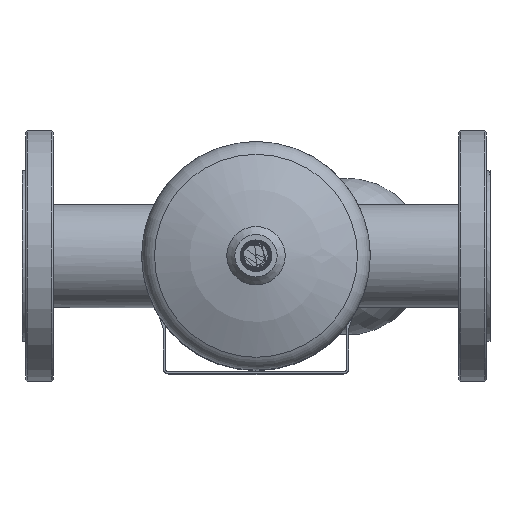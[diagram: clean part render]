
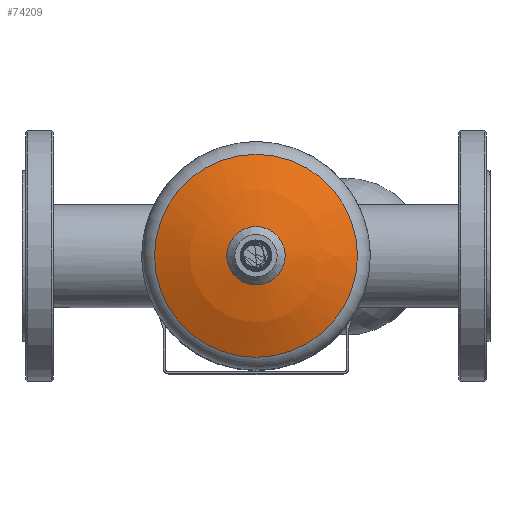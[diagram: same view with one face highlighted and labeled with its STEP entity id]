
A CAD part, top view. The second image highlights one B-rep face of the part: STEP entity #74209.
In plain terms, the highlighted spherical face has radius 168.3 mm.
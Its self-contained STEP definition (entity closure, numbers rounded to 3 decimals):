
#12100=SPHERICAL_SURFACE('',#76532,168.3);
#26396=ORIENTED_EDGE('',*,*,#34275,.T.);
#26397=ORIENTED_EDGE('',*,*,#34286,.T.);
#34275=EDGE_CURVE('',#39458,#39458,#39748,.T.);
#34286=EDGE_CURVE('',#39469,#39469,#39753,.T.);
#39458=VERTEX_POINT('',#151945);
#39469=VERTEX_POINT('',#152085);
#39748=CIRCLE('',#76524,21.515);
#39753=CIRCLE('',#76533,74.8);
#43408=EDGE_LOOP('',(#26396));
#43409=EDGE_LOOP('',(#26397));
#47179=FACE_BOUND('',#43408,.T.);
#47180=FACE_BOUND('',#43409,.T.);
#74209=ADVANCED_FACE('',(#47179,#47180),#12100,.T.);
#76524=AXIS2_PLACEMENT_3D('',#151944,#84920,#84921);
#76532=AXIS2_PLACEMENT_3D('',#152083,#84940,#84941);
#76533=AXIS2_PLACEMENT_3D('',#152084,#84942,#84943);
#84920=DIRECTION('',(0.,0.,-1.));
#84921=DIRECTION('',(-1.,0.,0.));
#84940=DIRECTION('',(0.,0.,1.));
#84941=DIRECTION('',(1.,0.,0.));
#84942=DIRECTION('',(0.,0.,1.));
#84943=DIRECTION('',(1.,0.,0.));
#151944=CARTESIAN_POINT('',(0.,0.,93.619));
#151945=CARTESIAN_POINT('',(-21.515,0.,93.619));
#152083=CARTESIAN_POINT('',(0.,0.,-73.3));
#152084=CARTESIAN_POINT('',(0.,0.,77.464));
#152085=CARTESIAN_POINT('',(74.8,0.,77.464));
